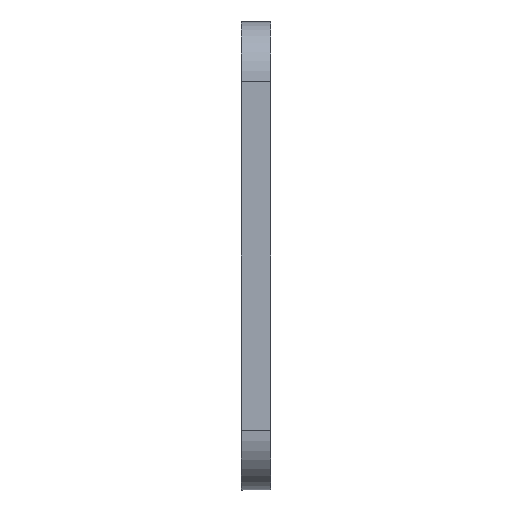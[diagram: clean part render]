
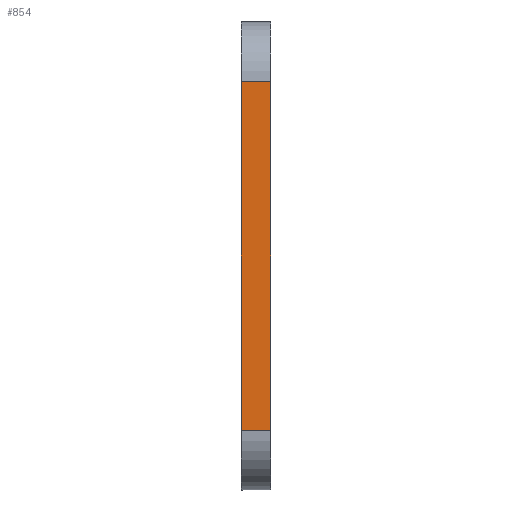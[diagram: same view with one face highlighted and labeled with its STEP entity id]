
A CAD part, front view. The second image highlights one B-rep face of the part: STEP entity #854.
In plain terms, the highlighted planar face has unit normal (0, -1, 0).
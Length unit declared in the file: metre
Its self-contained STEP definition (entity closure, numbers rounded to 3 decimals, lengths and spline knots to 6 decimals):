
#17=PLANE('',#940);
#53=LINE('',#1342,#125);
#63=LINE('',#1374,#135);
#64=LINE('',#1376,#136);
#65=LINE('',#1378,#137);
#125=VECTOR('',#1072,1.);
#135=VECTOR('',#1104,1.);
#136=VECTOR('',#1107,1.);
#137=VECTOR('',#1108,1.);
#254=ORIENTED_EDGE('',*,*,#477,.T.);
#255=ORIENTED_EDGE('',*,*,#476,.T.);
#256=ORIENTED_EDGE('',*,*,#460,.F.);
#257=ORIENTED_EDGE('',*,*,#478,.F.);
#460=EDGE_CURVE('',#576,#577,#53,.T.);
#476=EDGE_CURVE('',#587,#577,#63,.T.);
#477=EDGE_CURVE('',#588,#587,#64,.T.);
#478=EDGE_CURVE('',#588,#576,#65,.T.);
#576=VERTEX_POINT('',#1341);
#577=VERTEX_POINT('',#1343);
#587=VERTEX_POINT('',#1373);
#588=VERTEX_POINT('',#1377);
#691=EDGE_LOOP('',(#254,#255,#256,#257));
#767=FACE_BOUND('',#691,.T.);
#854=ADVANCED_FACE('',(#767),#17,.T.);
#940=AXIS2_PLACEMENT_3D('',#1375,#1105,#1106);
#1072=DIRECTION('',(0.,0.,1.));
#1104=DIRECTION('',(-1.,0.,0.));
#1105=DIRECTION('',(0.,-1.,0.));
#1106=DIRECTION('',(0.,0.,1.));
#1107=DIRECTION('',(0.,0.,1.));
#1108=DIRECTION('',(-1.,0.,0.));
#1341=CARTESIAN_POINT('',(-0.058677,-0.032372,-0.060646));
#1342=CARTESIAN_POINT('',(-0.058677,-0.032372,-0.060646));
#1343=CARTESIAN_POINT('',(-0.058677,-0.032372,0.009244));
#1373=CARTESIAN_POINT('',(-0.052677,-0.032372,0.009244));
#1374=CARTESIAN_POINT('',(-0.052677,-0.032372,0.009244));
#1375=CARTESIAN_POINT('',(-0.052677,-0.032372,-0.060646));
#1376=CARTESIAN_POINT('',(-0.052677,-0.032372,-0.060646));
#1377=CARTESIAN_POINT('',(-0.052677,-0.032372,-0.060646));
#1378=CARTESIAN_POINT('',(-0.052677,-0.032372,-0.060646));
